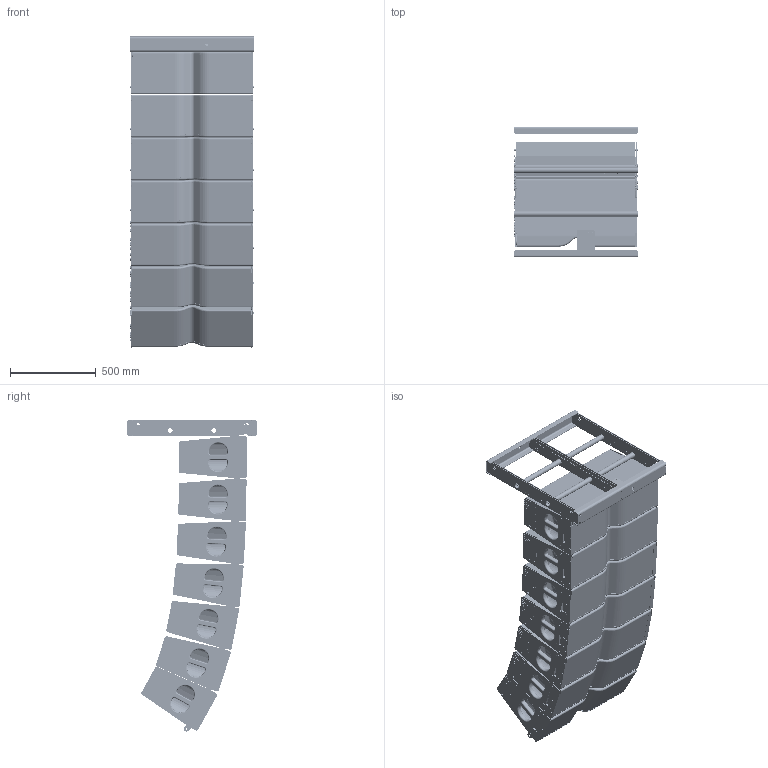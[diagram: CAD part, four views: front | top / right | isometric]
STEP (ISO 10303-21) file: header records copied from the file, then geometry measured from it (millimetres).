
FILE_DESCRIPTION(/* description */ (''),/* implementation_level */ '2;1');
FILE_NAME(/* name */ 'LA28 7 Box ARRAY v7.step',/* time_stamp */ '2023-01-22T00:09:32-08:00',/* author */ (''),/* organization */ (''),/* preprocessor_version */ 'ST-DEVELOPER v19.2',/* originating_system */ 'Autodesk Translation Framework v11.17.0.187',/* authorisation */ '');
FILE_SCHEMA (('AUTOMOTIVE_DESIGN { 1 0 10303 214 3 1 1 }'));
Length unit declared in the file: inch
Products named in the file (10): LA28 7 Box ARRAY; LA28 RF1 Sheet Metal Assembly; LA28RF1 Front Rear C Channel^la28RF1 SHEET METAL ASSEMBLY; LA28RF1 Center Bar^la28RF1 SHEET METAL ASSEMBLY; AL28RF1 Outer Bar^la28RF1 SHEET METAL ASSEMBLY; Inclinometer Mount Plate^la28RF1 SHEET METAL ASSEMBLY; Stabilizing Tube^la28RF1 SHEET METAL ASSEMBLY; Rear Connection Arm^la28RF1 SHEET METAL ASSEMBLY; LA18 LA28 Front Connection Tongue^la28RF1 SHEET METAL ASSEMBLY; LA28 TOUR BLOCK
Assembly tree (23 placements, depth 3):
  LA28 7 Box ARRAY
    LA28 RF1 Sheet Metal Assembly
      LA28RF1 Front Rear C Channel^la28RF1 SHEET METAL ASSEMBLY  x2
      LA28RF1 Center Bar^la28RF1 SHEET METAL ASSEMBLY  x2
      AL28RF1 Outer Bar^la28RF1 SHEET METAL ASSEMBLY  x4
      Inclinometer Mount Plate^la28RF1 SHEET METAL ASSEMBLY
      Stabilizing Tube^la28RF1 SHEET METAL ASSEMBLY  x2
      Rear Connection Arm^la28RF1 SHEET METAL ASSEMBLY  x2
      LA18 LA28 Front Connection Tongue^la28RF1 SHEET METAL ASSEMBLY  x2
    LA28 TOUR BLOCK  x7
Bounding box: 726.62 x 762 x 1810.42 mm (x, y, z)
Volume: 405514389.7 mm3; surface area: 10248751.5 mm2
Topology: 22 solids, 22 shells, 3553 faces, 8811 edges, 5674 vertices
Faces by surface type: plane 1613, cylinder 1520, torus 378, bspline 42
Full cylindrical faces by diameter (mm): 6.35 x4, 8.319 x42, 8.382 x420, 8.7 x14, 13 x98, 16.51 x52, 17 x84, 19.05 x2, 22.86 x2, 25.4 x8, 27.178 x2, 31.75 x2, 32.004 x12
Entity records: 22805 total; most frequent: CARTESIAN_POINT 4180, DIRECTION 3930, ORIENTED_EDGE 3624, EDGE_CURVE 1812, AXIS2_PLACEMENT_3D 1406, VERTEX_POINT 1168, LINE 1118, VECTOR 1118
